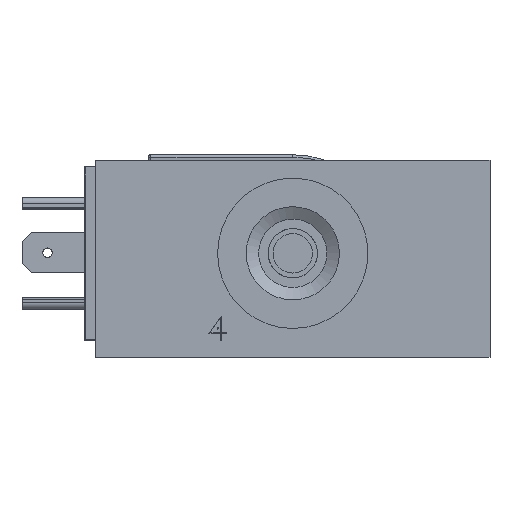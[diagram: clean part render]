
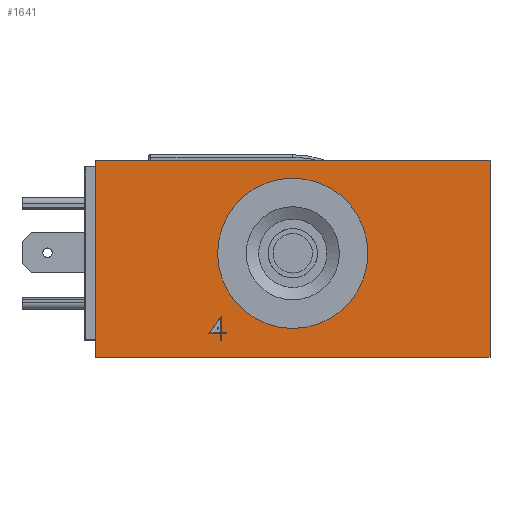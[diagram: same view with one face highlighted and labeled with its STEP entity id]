
A CAD part, left-side view. The second image highlights one B-rep face of the part: STEP entity #1641.
In plain terms, the highlighted planar face has unit normal (-1, 0, 0).
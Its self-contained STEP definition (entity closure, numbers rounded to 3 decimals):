
#1641 = ADVANCED_FACE( '', ( #3422, #3423, #3424 ), #3425, .T. );
#3422 = FACE_BOUND( '', #5775, .T. );
#3423 = FACE_OUTER_BOUND( '', #5776, .T. );
#3424 = FACE_BOUND( '', #5777, .T. );
#3425 = PLANE( '', #5778 );
#5775 = EDGE_LOOP( '', ( #9192 ) );
#5776 = EDGE_LOOP( '', ( #9193, #9194, #9195, #9196 ) );
#5777 = EDGE_LOOP( '', ( #9197, #9198, #9199, #9200, #9201, #9202, #9203, #9204, #9205 ) );
#5778 = AXIS2_PLACEMENT_3D( '', #9206, #9207, #9208 );
#9192 = ORIENTED_EDGE( '', *, *, #12788, .T. );
#9193 = ORIENTED_EDGE( '', *, *, #12164, .F. );
#9194 = ORIENTED_EDGE( '', *, *, #12764, .F. );
#9195 = ORIENTED_EDGE( '', *, *, #12726, .T. );
#9196 = ORIENTED_EDGE( '', *, *, #12789, .T. );
#9197 = ORIENTED_EDGE( '', *, *, #12790, .T. );
#9198 = ORIENTED_EDGE( '', *, *, #12791, .T. );
#9199 = ORIENTED_EDGE( '', *, *, #12270, .T. );
#9200 = ORIENTED_EDGE( '', *, *, #12792, .T. );
#9201 = ORIENTED_EDGE( '', *, *, #12793, .T. );
#9202 = ORIENTED_EDGE( '', *, *, #12794, .T. );
#9203 = ORIENTED_EDGE( '', *, *, #12795, .T. );
#9204 = ORIENTED_EDGE( '', *, *, #12796, .T. );
#9205 = ORIENTED_EDGE( '', *, *, #11931, .T. );
#9206 = CARTESIAN_POINT( '', ( -41., -31.75, 31.75 ) );
#9207 = DIRECTION( '', ( -1., 0., 0. ) );
#9208 = DIRECTION( '', ( 0., -1., 0. ) );
#11931 = EDGE_CURVE( '', #14494, #14495, #14496, .T. );
#12164 = EDGE_CURVE( '', #14877, #14879, #14880, .T. );
#12270 = EDGE_CURVE( '', #15047, #15048, #15049, .T. );
#12726 = EDGE_CURVE( '', #15760, #15758, #15761, .T. );
#12764 = EDGE_CURVE( '', #15760, #14877, #15817, .T. );
#12788 = EDGE_CURVE( '', #15852, #15852, #15853, .T. );
#12789 = EDGE_CURVE( '', #15758, #14879, #15854, .T. );
#12790 = EDGE_CURVE( '', #14495, #15855, #15856, .T. );
#12791 = EDGE_CURVE( '', #15855, #15047, #15857, .T. );
#12792 = EDGE_CURVE( '', #15048, #15858, #15859, .T. );
#12793 = EDGE_CURVE( '', #15858, #15860, #15861, .T. );
#12794 = EDGE_CURVE( '', #15860, #15862, #15863, .T. );
#12795 = EDGE_CURVE( '', #15862, #15864, #15865, .T. );
#12796 = EDGE_CURVE( '', #15864, #14494, #15866, .T. );
#14494 = VERTEX_POINT( '', #17223 );
#14495 = VERTEX_POINT( '', #17224 );
#14496 = B_SPLINE_CURVE_WITH_KNOTS( '', 1, ( #17225, #17226 ), .UNSPECIFIED., .F., .F., ( 2, 2 ), ( 0.707, 0.924 ), .UNSPECIFIED. );
#14877 = VERTEX_POINT( '', #18507 );
#14879 = VERTEX_POINT( '', #18510 );
#14880 = LINE( '', #18511, #18512 );
#15047 = VERTEX_POINT( '', #18902 );
#15048 = VERTEX_POINT( '', #18903 );
#15049 = B_SPLINE_CURVE_WITH_KNOTS( '', 1, ( #18904, #18905 ), .UNSPECIFIED., .F., .F., ( 2, 2 ), ( 0., 0.07 ), .UNSPECIFIED. );
#15758 = VERTEX_POINT( '', #20562 );
#15760 = VERTEX_POINT( '', #20565 );
#15761 = LINE( '', #20566, #20567 );
#15817 = LINE( '', #20637, #20638 );
#15852 = VERTEX_POINT( '', #20882 );
#15853 = CIRCLE( '', #20883, 12.1 );
#15854 = LINE( '', #20884, #20885 );
#15855 = VERTEX_POINT( '', #20886 );
#15856 = B_SPLINE_CURVE_WITH_KNOTS( '', 1, ( #20887, #20888 ), .UNSPECIFIED., .F., .F., ( 2, 2 ), ( 0.924, 0.994 ), .UNSPECIFIED. );
#15857 = B_SPLINE_CURVE_WITH_KNOTS( '', 1, ( #20889, #20890 ), .UNSPECIFIED., .F., .F., ( 2, 2 ), ( 0.994, 1. ), .UNSPECIFIED. );
#15858 = VERTEX_POINT( '', #20891 );
#15859 = B_SPLINE_CURVE_WITH_KNOTS( '', 1, ( #20892, #20893 ), .UNSPECIFIED., .F., .F., ( 2, 2 ), ( 0.07, 0.172 ), .UNSPECIFIED. );
#15860 = VERTEX_POINT( '', #20894 );
#15861 = B_SPLINE_CURVE_WITH_KNOTS( '', 1, ( #20895, #20896 ), .UNSPECIFIED., .F., .F., ( 2, 2 ), ( 0.172, 0.178 ), .UNSPECIFIED. );
#15862 = VERTEX_POINT( '', #20897 );
#15863 = B_SPLINE_CURVE_WITH_KNOTS( '', 1, ( #20898, #20899 ), .UNSPECIFIED., .F., .F., ( 2, 2 ), ( 0.178, 0.28 ), .UNSPECIFIED. );
#15864 = VERTEX_POINT( '', #20900 );
#15865 = B_SPLINE_CURVE_WITH_KNOTS( '', 1, ( #20901, #20902 ), .UNSPECIFIED., .F., .F., ( 2, 2 ), ( 0.28, 0.433 ), .UNSPECIFIED. );
#15866 = B_SPLINE_CURVE_WITH_KNOTS( '', 1, ( #20903, #20904 ), .UNSPECIFIED., .F., .F., ( 2, 2 ), ( 0.433, 0.707 ), .UNSPECIFIED. );
#17223 = CARTESIAN_POINT( '', ( -41., 11.553, 6.65 ) );
#17224 = CARTESIAN_POINT( '', ( -41., 11.553, 3.983 ) );
#17225 = CARTESIAN_POINT( '', ( -41., 11.553, 6.65 ) );
#17226 = CARTESIAN_POINT( '', ( -41., 11.553, 3.983 ) );
#18507 = CARTESIAN_POINT( '', ( -41., -31.75, 0. ) );
#18510 = CARTESIAN_POINT( '', ( -41., 31.75, 0. ) );
#18511 = CARTESIAN_POINT( '', ( -41., -31.75, 0. ) );
#18512 = VECTOR( '', #23880, 1000. );
#18902 = CARTESIAN_POINT( '', ( -41., 10.698, 3.904 ) );
#18903 = CARTESIAN_POINT( '', ( -41., 11.553, 3.904 ) );
#18904 = CARTESIAN_POINT( '', ( -41., 10.698, 3.904 ) );
#18905 = CARTESIAN_POINT( '', ( -41., 11.553, 3.904 ) );
#20562 = CARTESIAN_POINT( '', ( -41., 31.75, 31.75 ) );
#20565 = CARTESIAN_POINT( '', ( -41., -31.75, 31.75 ) );
#20566 = CARTESIAN_POINT( '', ( -41., -31.75, 31.75 ) );
#20567 = VECTOR( '', #24472, 1000. );
#20637 = CARTESIAN_POINT( '', ( -41., -31.75, 31.75 ) );
#20638 = VECTOR( '', #24516, 1000. );
#20882 = CARTESIAN_POINT( '', ( -41., -12.1, 16.75 ) );
#20883 = AXIS2_PLACEMENT_3D( '', #24532, #24533, #24534 );
#20884 = CARTESIAN_POINT( '', ( -41., 31.75, 31.75 ) );
#20885 = VECTOR( '', #24535, 1000. );
#20886 = CARTESIAN_POINT( '', ( -41., 10.698, 3.983 ) );
#20887 = CARTESIAN_POINT( '', ( -41., 11.553, 3.983 ) );
#20888 = CARTESIAN_POINT( '', ( -41., 10.698, 3.983 ) );
#20889 = CARTESIAN_POINT( '', ( -41., 10.698, 3.983 ) );
#20890 = CARTESIAN_POINT( '', ( -41., 10.698, 3.904 ) );
#20891 = CARTESIAN_POINT( '', ( -41., 11.553, 2.65 ) );
#20892 = CARTESIAN_POINT( '', ( -41., 11.553, 3.904 ) );
#20893 = CARTESIAN_POINT( '', ( -41., 11.553, 2.65 ) );
#20894 = CARTESIAN_POINT( '', ( -41., 11.633, 2.65 ) );
#20895 = CARTESIAN_POINT( '', ( -41., 11.553, 2.65 ) );
#20896 = CARTESIAN_POINT( '', ( -41., 11.633, 2.65 ) );
#20897 = CARTESIAN_POINT( '', ( -41., 11.633, 3.904 ) );
#20898 = CARTESIAN_POINT( '', ( -41., 11.633, 2.65 ) );
#20899 = CARTESIAN_POINT( '', ( -41., 11.633, 3.904 ) );
#20900 = CARTESIAN_POINT( '', ( -41., 13.502, 3.904 ) );
#20901 = CARTESIAN_POINT( '', ( -41., 11.633, 3.904 ) );
#20902 = CARTESIAN_POINT( '', ( -41., 13.502, 3.904 ) );
#20903 = CARTESIAN_POINT( '', ( -41., 13.502, 3.904 ) );
#20904 = CARTESIAN_POINT( '', ( -41., 11.553, 6.65 ) );
#23880 = DIRECTION( '', ( 0., 1., 0. ) );
#24472 = DIRECTION( '', ( 0., 1., 0. ) );
#24516 = DIRECTION( '', ( 0., 0., -1. ) );
#24532 = CARTESIAN_POINT( '', ( -41., 0., 16.75 ) );
#24533 = DIRECTION( '', ( 1., 0., 0. ) );
#24534 = DIRECTION( '', ( 0., -1., 0. ) );
#24535 = DIRECTION( '', ( 0., 0., -1. ) );
